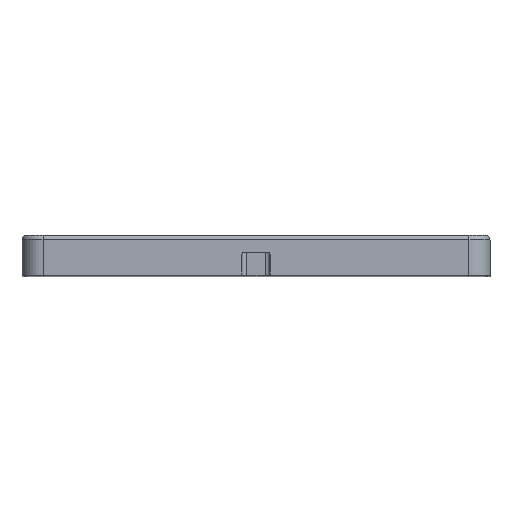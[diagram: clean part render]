
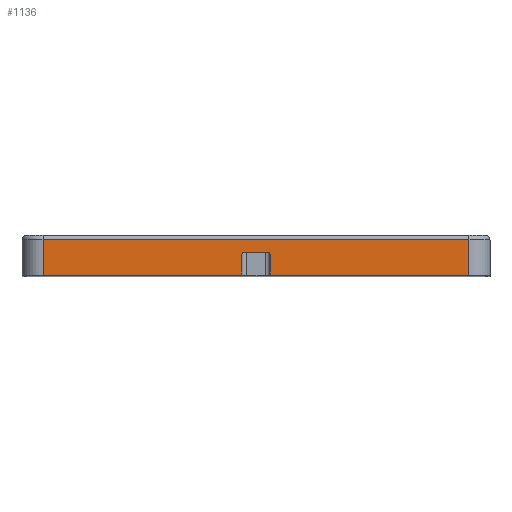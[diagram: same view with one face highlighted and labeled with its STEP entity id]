
A CAD part, top view. The second image highlights one B-rep face of the part: STEP entity #1136.
In plain terms, the highlighted planar face has unit normal (0, 0, 1) as drawn and (-1, 0, 0) by its records, which use the part's own axes.
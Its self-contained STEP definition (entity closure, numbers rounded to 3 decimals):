
#39 = VERTEX_POINT ( 'NONE', #945 ) ;
#78 = EDGE_CURVE ( 'NONE', #5214, #9893, #3334, .T. ) ;
#87 = LINE ( 'NONE', #10025, #10074 ) ;
#136 = EDGE_CURVE ( 'NONE', #842, #1695, #1592, .T. ) ;
#300 = ORIENTED_EDGE ( 'NONE', *, *, #4972, .T. ) ;
#396 = VERTEX_POINT ( 'NONE', #6176 ) ;
#465 = DIRECTION ( 'NONE',  ( 0., 0., 1. ) ) ;
#498 = CIRCLE ( 'NONE', #6287, 0.5 ) ;
#716 = CARTESIAN_POINT ( 'NONE',  ( 0., 4.9, -47.5 ) ) ;
#842 = VERTEX_POINT ( 'NONE', #7218 ) ;
#886 = ORIENTED_EDGE ( 'NONE', *, *, #3676, .T. ) ;
#945 = CARTESIAN_POINT ( 'NONE',  ( 0., 0., -53. ) ) ;
#1082 = VECTOR ( 'NONE', #5686, 1000. ) ;
#1136 = ADVANCED_FACE ( 'NONE', ( #9352 ), #9248, .F. ) ;
#1285 = EDGE_LOOP ( 'NONE', ( #886, #3970, #2446, #5936, #5697, #4957, #300, #1674, #10418, #10005 ) ) ;
#1592 = LINE ( 'NONE', #4954, #2973 ) ;
#1674 = ORIENTED_EDGE ( 'NONE', *, *, #136, .F. ) ;
#1695 = VERTEX_POINT ( 'NONE', #8751 ) ;
#1928 = DIRECTION ( 'NONE',  ( 1., 0., 0. ) ) ;
#2166 = AXIS2_PLACEMENT_3D ( 'NONE', #3987, #7255, #10525 ) ;
#2446 = ORIENTED_EDGE ( 'NONE', *, *, #6491, .F. ) ;
#2471 = EDGE_CURVE ( 'NONE', #3352, #8492, #2497, .T. ) ;
#2497 = LINE ( 'NONE', #5073, #6715 ) ;
#2511 = LINE ( 'NONE', #9739, #9985 ) ;
#2639 = DIRECTION ( 'NONE',  ( 0., 0., -1. ) ) ;
#2641 = DIRECTION ( 'NONE',  ( 0., -1., 0. ) ) ;
#2683 = AXIS2_PLACEMENT_3D ( 'NONE', #10210, #1928, #8445 ) ;
#2973 = VECTOR ( 'NONE', #8962, 1000. ) ;
#3105 = VERTEX_POINT ( 'NONE', #716 ) ;
#3127 = CARTESIAN_POINT ( 'NONE',  ( 0., 0., -47. ) ) ;
#3334 = LINE ( 'NONE', #3127, #5690 ) ;
#3346 = CARTESIAN_POINT ( 'NONE',  ( 0., 4.4, -53. ) ) ;
#3352 = VERTEX_POINT ( 'NONE', #8093 ) ;
#3435 = DIRECTION ( 'NONE',  ( -1., 0., 0. ) ) ;
#3676 = EDGE_CURVE ( 'NONE', #8492, #39, #2511, .T. ) ;
#3970 = ORIENTED_EDGE ( 'NONE', *, *, #7721, .F. ) ;
#3982 = DIRECTION ( 'NONE',  ( 0., 1., 0. ) ) ;
#3987 = CARTESIAN_POINT ( 'NONE',  ( 0., 4.4, -47.5 ) ) ;
#4581 = CARTESIAN_POINT ( 'NONE',  ( 0., 0., -4.5 ) ) ;
#4725 = EDGE_CURVE ( 'NONE', #9893, #3105, #9158, .T. ) ;
#4940 = CARTESIAN_POINT ( 'NONE',  ( 0., 7.5, -95.5 ) ) ;
#4954 = CARTESIAN_POINT ( 'NONE',  ( 0., 8.5, -4.5 ) ) ;
#4957 = ORIENTED_EDGE ( 'NONE', *, *, #78, .F. ) ;
#4972 = EDGE_CURVE ( 'NONE', #5214, #1695, #7627, .T. ) ;
#5020 = DIRECTION ( 'NONE',  ( 0., -1., 0. ) ) ;
#5045 = LINE ( 'NONE', #4940, #8366 ) ;
#5073 = CARTESIAN_POINT ( 'NONE',  ( 0., 8.5, -95.5 ) ) ;
#5214 = VERTEX_POINT ( 'NONE', #6848 ) ;
#5252 = VECTOR ( 'NONE', #465, 1000. ) ;
#5686 = DIRECTION ( 'NONE',  ( 0., 0., -1. ) ) ;
#5690 = VECTOR ( 'NONE', #3982, 1000. ) ;
#5697 = ORIENTED_EDGE ( 'NONE', *, *, #4725, .F. ) ;
#5823 = CARTESIAN_POINT ( 'NONE',  ( 0., 0., -95.5 ) ) ;
#5936 = ORIENTED_EDGE ( 'NONE', *, *, #10465, .F. ) ;
#6176 = CARTESIAN_POINT ( 'NONE',  ( 0., 4.9, -52.5 ) ) ;
#6287 = AXIS2_PLACEMENT_3D ( 'NONE', #6536, #3435, #2639 ) ;
#6491 = EDGE_CURVE ( 'NONE', #396, #7268, #498, .T. ) ;
#6536 = CARTESIAN_POINT ( 'NONE',  ( 0., 4.4, -52.5 ) ) ;
#6715 = VECTOR ( 'NONE', #5020, 1000. ) ;
#6848 = CARTESIAN_POINT ( 'NONE',  ( 0., 0., -47. ) ) ;
#7218 = CARTESIAN_POINT ( 'NONE',  ( 0., 7.5, -4.5 ) ) ;
#7243 = CARTESIAN_POINT ( 'NONE',  ( 0., 4.9, -52.5 ) ) ;
#7255 = DIRECTION ( 'NONE',  ( -1., 0., 0. ) ) ;
#7268 = VERTEX_POINT ( 'NONE', #3346 ) ;
#7352 = LINE ( 'NONE', #7243, #1082 ) ;
#7627 = LINE ( 'NONE', #4581, #5252 ) ;
#7721 = EDGE_CURVE ( 'NONE', #7268, #39, #87, .T. ) ;
#7914 = CARTESIAN_POINT ( 'NONE',  ( 0., 4.4, -47. ) ) ;
#8093 = CARTESIAN_POINT ( 'NONE',  ( 0., 7.5, -95.5 ) ) ;
#8104 = EDGE_CURVE ( 'NONE', #842, #3352, #5045, .T. ) ;
#8139 = DIRECTION ( 'NONE',  ( 0., 0., 1. ) ) ;
#8366 = VECTOR ( 'NONE', #9051, 1000. ) ;
#8445 = DIRECTION ( 'NONE',  ( 0., 0., -1. ) ) ;
#8492 = VERTEX_POINT ( 'NONE', #5823 ) ;
#8751 = CARTESIAN_POINT ( 'NONE',  ( 0., 0., -4.5 ) ) ;
#8962 = DIRECTION ( 'NONE',  ( 0., -1., 0. ) ) ;
#9051 = DIRECTION ( 'NONE',  ( 0., 0., -1. ) ) ;
#9158 = CIRCLE ( 'NONE', #2166, 0.5 ) ;
#9248 = PLANE ( 'NONE',  #2683 ) ;
#9352 = FACE_OUTER_BOUND ( 'NONE', #1285, .T. ) ;
#9739 = CARTESIAN_POINT ( 'NONE',  ( 0., 0., -4.5 ) ) ;
#9893 = VERTEX_POINT ( 'NONE', #7914 ) ;
#9985 = VECTOR ( 'NONE', #8139, 1000. ) ;
#10005 = ORIENTED_EDGE ( 'NONE', *, *, #2471, .T. ) ;
#10025 = CARTESIAN_POINT ( 'NONE',  ( 0., 0., -53. ) ) ;
#10074 = VECTOR ( 'NONE', #2641, 1000. ) ;
#10210 = CARTESIAN_POINT ( 'NONE',  ( 0., 8.5, -4.5 ) ) ;
#10418 = ORIENTED_EDGE ( 'NONE', *, *, #8104, .T. ) ;
#10465 = EDGE_CURVE ( 'NONE', #3105, #396, #7352, .T. ) ;
#10525 = DIRECTION ( 'NONE',  ( 0., 0., -1. ) ) ;
